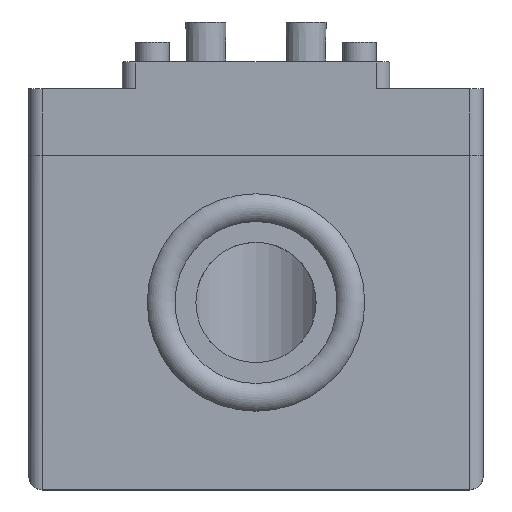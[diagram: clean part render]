
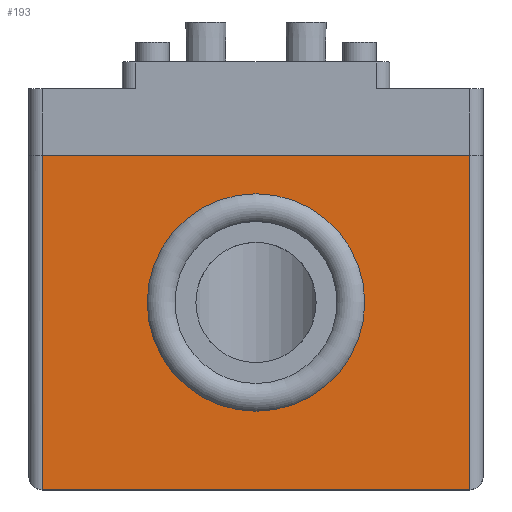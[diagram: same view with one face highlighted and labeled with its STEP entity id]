
A CAD part, top view. The second image highlights one B-rep face of the part: STEP entity #193.
In plain terms, the highlighted planar face has unit normal (0, 0, 1).
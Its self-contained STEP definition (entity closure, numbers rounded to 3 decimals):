
#193=ADVANCED_FACE('',(#545,#546),#547,.T.);
#545=FACE_BOUND('',#1119,.T.);
#546=FACE_OUTER_BOUND('',#1120,.T.);
#547=PLANE('',#1121);
#1119=EDGE_LOOP('',(#1692));
#1120=EDGE_LOOP('',(#1693,#1694,#1695,#1696));
#1121=AXIS2_PLACEMENT_3D('',#1697,#1698,#1699);
#1692=ORIENTED_EDGE('',*,*,#3022,.F.);
#1693=ORIENTED_EDGE('',*,*,#3023,.T.);
#1694=ORIENTED_EDGE('',*,*,#3024,.T.);
#1695=ORIENTED_EDGE('',*,*,#3025,.T.);
#1696=ORIENTED_EDGE('',*,*,#3026,.T.);
#1697=CARTESIAN_POINT('',(-17.0,-32.0,6.1));
#1698=DIRECTION('',(0.0,0.0,1.0));
#1699=DIRECTION('',(1.0,0.0,0.0));
#3022=EDGE_CURVE('',#3526,#3526,#3527,.T.);
#3023=EDGE_CURVE('',#3528,#3529,#3530,.T.);
#3024=EDGE_CURVE('',#3529,#3531,#3532,.T.);
#3025=EDGE_CURVE('',#3531,#3533,#3534,.T.);
#3026=EDGE_CURVE('',#3533,#3528,#3535,.T.);
#3526=VERTEX_POINT('',#4263);
#3527=CIRCLE('',#4264,8.139);
#3528=VERTEX_POINT('',#4265);
#3529=VERTEX_POINT('',#4266);
#3530=LINE('',#4267,#4268);
#3531=VERTEX_POINT('',#4269);
#3532=LINE('',#4270,#4271);
#3533=VERTEX_POINT('',#4272);
#3534=LINE('',#4273,#4274);
#3535=LINE('',#4275,#4276);
#4263=CARTESIAN_POINT('',(8.139,-18.0,6.1));
#4264=AXIS2_PLACEMENT_3D('',#5307,#5308,#5309);
#4265=CARTESIAN_POINT('',(-16.0,-32.0,6.1));
#4266=CARTESIAN_POINT('',(16.0,-32.0,6.1));
#4267=CARTESIAN_POINT('',(-17.0,-32.0,6.1));
#4268=VECTOR('',#5310,1.0);
#4269=CARTESIAN_POINT('',(16.0,-7.,6.1));
#4270=CARTESIAN_POINT('',(16.0,-7.,6.1));
#4271=VECTOR('',#5311,1.0);
#4272=CARTESIAN_POINT('',(-16.0,-7.,6.1));
#4273=CARTESIAN_POINT('',(17.0,-7.,6.1));
#4274=VECTOR('',#5312,1.0);
#4275=CARTESIAN_POINT('',(-16.0,-32.0,6.1));
#4276=VECTOR('',#5313,1.0);
#5307=CARTESIAN_POINT('',(0.0,-18.0,6.1));
#5308=DIRECTION('',(0.0,0.0,1.0));
#5309=DIRECTION('',(1.0,0.0,0.0));
#5310=DIRECTION('',(1.0,0.0,0.0));
#5311=DIRECTION('',(0.0,1.0,0.0));
#5312=DIRECTION('',(-1.0,0.0,0.0));
#5313=DIRECTION('',(0.0,-1.0,0.0));
